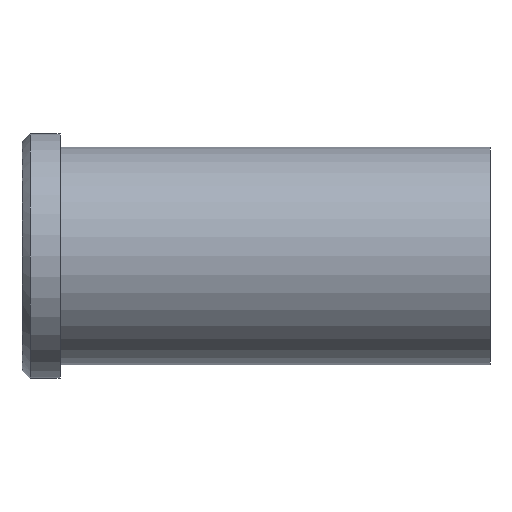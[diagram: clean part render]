
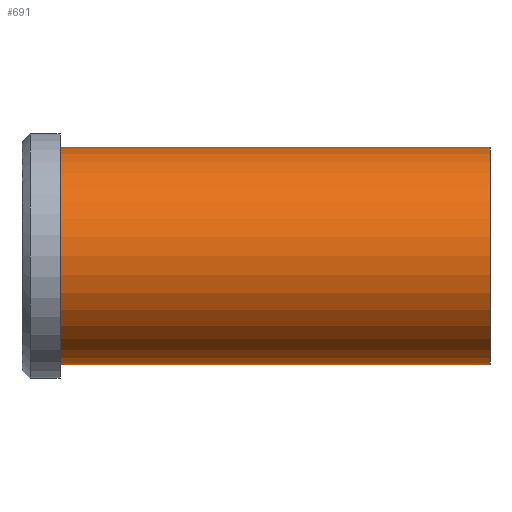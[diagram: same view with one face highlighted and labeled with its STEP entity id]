
A CAD part, front view. The second image highlights one B-rep face of the part: STEP entity #691.
In plain terms, the highlighted cylindrical face has radius 20 mm (diameter 40 mm), a partial arc.
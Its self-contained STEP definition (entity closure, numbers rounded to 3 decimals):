
#501=CARTESIAN_POINT('Vertex',(0.,0.,-20.)) ;
#506=CARTESIAN_POINT('Axis2P3D Location',(0.,0.,0.)) ;
#510=CARTESIAN_POINT('Vertex',(0.,-20.,0.)) ;
#513=CARTESIAN_POINT('Axis2P3D Location',(0.,0.,0.)) ;
#517=CARTESIAN_POINT('Vertex',(0.,0.,20.)) ;
#631=CARTESIAN_POINT('Line Origine',(79.,0.,20.)) ;
#635=CARTESIAN_POINT('Vertex',(79.,0.,20.)) ;
#649=CARTESIAN_POINT('Vertex',(79.,0.,-20.)) ;
#652=CARTESIAN_POINT('Line Origine',(79.,0.,-20.)) ;
#666=CARTESIAN_POINT('Axis2P3D Location',(79.,0.,0.)) ;
#671=CARTESIAN_POINT('Axis2P3D Location',(79.,0.,0.)) ;
#675=CARTESIAN_POINT('Vertex',(79.,-20.,0.)) ;
#678=CARTESIAN_POINT('Axis2P3D Location',(79.,0.,0.)) ;
#507=DIRECTION('Axis2P3D Direction',(1.,0.,-0.)) ;
#514=DIRECTION('Axis2P3D Direction',(1.,0.,-0.)) ;
#632=DIRECTION('Vector Direction',(-1.,0.,0.)) ;
#653=DIRECTION('Vector Direction',(-1.,0.,0.)) ;
#667=DIRECTION('Axis2P3D Direction',(-1.,-0.,-0.)) ;
#668=DIRECTION('Axis2P3D XDirection',(0.,0.,-1.)) ;
#672=DIRECTION('Axis2P3D Direction',(-1.,-0.,-0.)) ;
#679=DIRECTION('Axis2P3D Direction',(-1.,-0.,-0.)) ;
#508=AXIS2_PLACEMENT_3D('Circle Axis2P3D',#506,#507,$) ;
#515=AXIS2_PLACEMENT_3D('Circle Axis2P3D',#513,#514,$) ;
#669=AXIS2_PLACEMENT_3D('Cylinder Axis2P3D',#666,#667,#668) ;
#673=AXIS2_PLACEMENT_3D('Circle Axis2P3D',#671,#672,$) ;
#680=AXIS2_PLACEMENT_3D('Circle Axis2P3D',#678,#679,$) ;
#684=ORIENTED_EDGE('',*,*,#656,.T.) ;
#685=ORIENTED_EDGE('',*,*,#677,.F.) ;
#686=ORIENTED_EDGE('',*,*,#682,.F.) ;
#687=ORIENTED_EDGE('',*,*,#637,.T.) ;
#688=ORIENTED_EDGE('',*,*,#519,.T.) ;
#689=ORIENTED_EDGE('',*,*,#512,.T.) ;
#633=VECTOR('Line Direction',#632,1.) ;
#654=VECTOR('Line Direction',#653,1.) ;
#691=ADVANCED_FACE('353-32X86',(#690),#670,.T.) ;
#509=CIRCLE('generated circle',#508,20.) ;
#516=CIRCLE('generated circle',#515,20.) ;
#674=CIRCLE('generated circle',#673,20.) ;
#681=CIRCLE('generated circle',#680,20.) ;
#670=CYLINDRICAL_SURFACE('generated cylinder',#669,20.) ;
#512=EDGE_CURVE('',#511,#502,#509,.T.) ;
#519=EDGE_CURVE('',#518,#511,#516,.T.) ;
#637=EDGE_CURVE('',#636,#518,#634,.T.) ;
#656=EDGE_CURVE('',#502,#650,#655,.F.) ;
#677=EDGE_CURVE('',#676,#650,#674,.F.) ;
#682=EDGE_CURVE('',#636,#676,#681,.F.) ;
#683=EDGE_LOOP('',(#684,#685,#686,#687,#688,#689)) ;
#690=FACE_OUTER_BOUND('',#683,.T.) ;
#634=LINE('Line',#631,#633) ;
#655=LINE('Line',#652,#654) ;
#502=VERTEX_POINT('',#501) ;
#511=VERTEX_POINT('',#510) ;
#518=VERTEX_POINT('',#517) ;
#636=VERTEX_POINT('',#635) ;
#650=VERTEX_POINT('',#649) ;
#676=VERTEX_POINT('',#675) ;
